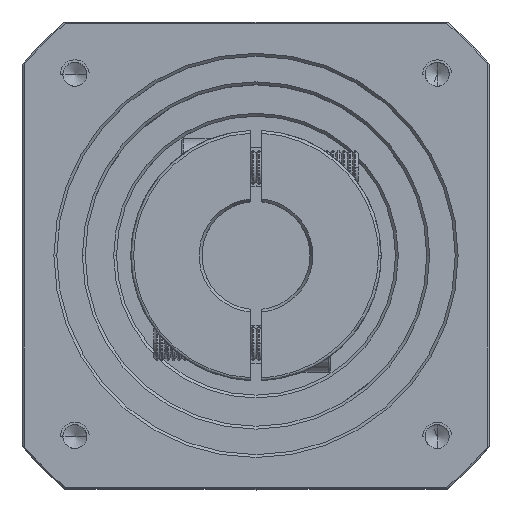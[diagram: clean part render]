
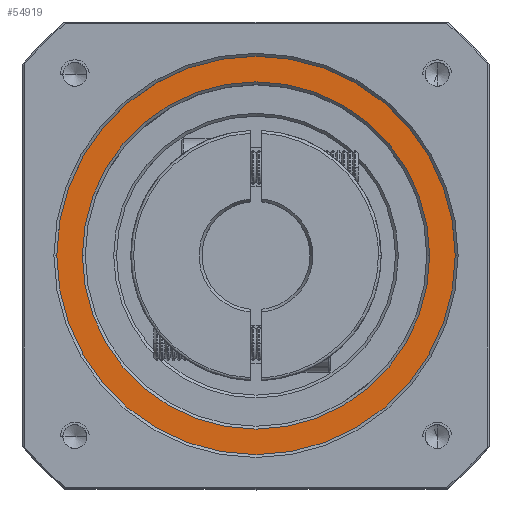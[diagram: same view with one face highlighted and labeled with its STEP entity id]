
A CAD part, top view. The second image highlights one B-rep face of the part: STEP entity #54919.
In plain terms, the highlighted planar face has unit normal (0, 0, 1).
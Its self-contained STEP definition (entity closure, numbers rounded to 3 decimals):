
#1499 = PLANE ( 'NONE',  #108679 ) ;
#2344 = DIRECTION ( 'NONE',  ( 0., 0., -1. ) ) ;
#8739 = EDGE_CURVE ( 'NONE', #34988, #107011, #23574, .T. ) ;
#12309 = DIRECTION ( 'NONE',  ( 0., 0., 1. ) ) ;
#17847 = CARTESIAN_POINT ( 'NONE',  ( -116.86, 19.655, 17.325 ) ) ;
#20414 = DIRECTION ( 'NONE',  ( 0., 0., 1. ) ) ;
#23055 = FACE_BOUND ( 'NONE', #57705, .T. ) ;
#23574 = CIRCLE ( 'NONE', #68112, 30.5 ) ;
#24993 = CIRCLE ( 'NONE', #107632, 35. ) ;
#26270 = EDGE_CURVE ( 'NONE', #64334, #47141, #24993, .T. ) ;
#34988 = VERTEX_POINT ( 'NONE', #112815 ) ;
#39947 = CARTESIAN_POINT ( 'NONE',  ( -86.36, 19.655, 17.325 ) ) ;
#42215 = AXIS2_PLACEMENT_3D ( 'NONE', #61465, #2344, #71232 ) ;
#45766 = ORIENTED_EDGE ( 'NONE', *, *, #84247, .T. ) ;
#45872 = CARTESIAN_POINT ( 'NONE',  ( -121.36, 19.655, 17.325 ) ) ;
#47141 = VERTEX_POINT ( 'NONE', #45872 ) ;
#49055 = CARTESIAN_POINT ( 'NONE',  ( -51.36, 19.655, 17.325 ) ) ;
#49848 = DIRECTION ( 'NONE',  ( 1., 0., 0. ) ) ;
#51093 = DIRECTION ( 'NONE',  ( 0., 0., 1. ) ) ;
#54919 = ADVANCED_FACE ( 'NONE', ( #98388, #23055 ), #1499, .T. ) ;
#57705 = EDGE_LOOP ( 'NONE', ( #98111, #45766 ) ) ;
#59464 = EDGE_LOOP ( 'NONE', ( #73629, #119366 ) ) ;
#61465 = CARTESIAN_POINT ( 'NONE',  ( -86.36, 19.655, 17.325 ) ) ;
#64334 = VERTEX_POINT ( 'NONE', #49055 ) ;
#64567 = CIRCLE ( 'NONE', #42215, 30.5 ) ;
#66895 = CIRCLE ( 'NONE', #95186, 35. ) ;
#68112 = AXIS2_PLACEMENT_3D ( 'NONE', #39947, #108524, #49848 ) ;
#71232 = DIRECTION ( 'NONE',  ( 1., 0., 0. ) ) ;
#71234 = CARTESIAN_POINT ( 'NONE',  ( -86.36, 19.655, 17.325 ) ) ;
#73629 = ORIENTED_EDGE ( 'NONE', *, *, #26270, .T. ) ;
#79366 = CARTESIAN_POINT ( 'NONE',  ( -86.36, 19.655, 17.325 ) ) ;
#81116 = DIRECTION ( 'NONE',  ( 1., 0., 0. ) ) ;
#84247 = EDGE_CURVE ( 'NONE', #107011, #34988, #64567, .T. ) ;
#89215 = DIRECTION ( 'NONE',  ( 1., 0., 0. ) ) ;
#95186 = AXIS2_PLACEMENT_3D ( 'NONE', #71234, #12309, #81116 ) ;
#98111 = ORIENTED_EDGE ( 'NONE', *, *, #8739, .T. ) ;
#98388 = FACE_OUTER_BOUND ( 'NONE', #59464, .T. ) ;
#107011 = VERTEX_POINT ( 'NONE', #17847 ) ;
#107632 = AXIS2_PLACEMENT_3D ( 'NONE', #79366, #20414, #89215 ) ;
#108524 = DIRECTION ( 'NONE',  ( 0., 0., -1. ) ) ;
#108679 = AXIS2_PLACEMENT_3D ( 'NONE', #109720, #51093, #119544 ) ;
#109720 = CARTESIAN_POINT ( 'NONE',  ( -86.36, 19.655, 17.325 ) ) ;
#112815 = CARTESIAN_POINT ( 'NONE',  ( -55.86, 19.655, 17.325 ) ) ;
#116176 = EDGE_CURVE ( 'NONE', #47141, #64334, #66895, .T. ) ;
#119366 = ORIENTED_EDGE ( 'NONE', *, *, #116176, .T. ) ;
#119544 = DIRECTION ( 'NONE',  ( 1., 0., 0. ) ) ;
